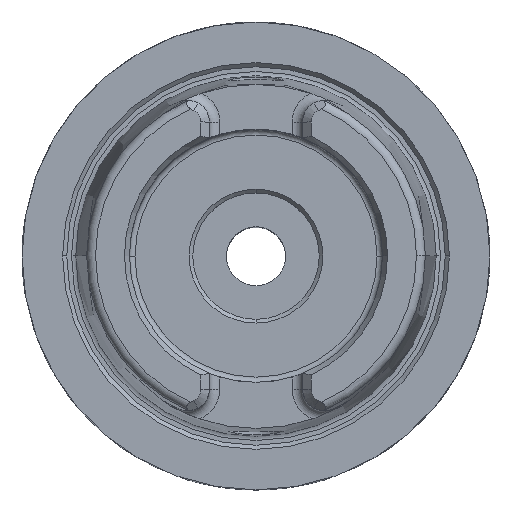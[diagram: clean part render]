
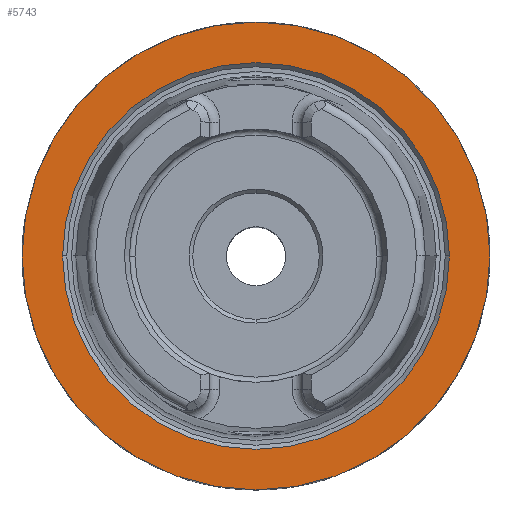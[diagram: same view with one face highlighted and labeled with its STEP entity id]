
A CAD part, top view. The second image highlights one B-rep face of the part: STEP entity #5743.
In plain terms, the highlighted planar face has unit normal (0, 0, 1).
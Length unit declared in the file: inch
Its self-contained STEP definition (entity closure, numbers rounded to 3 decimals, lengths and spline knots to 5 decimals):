
#243 = CARTESIAN_POINT ( 'NONE',  ( 1.23898, 0., 0. ) ) ;
#285 = DIRECTION ( 'NONE',  ( 0., 0., 1. ) ) ;
#496 = CARTESIAN_POINT ( 'NONE',  ( 1.02397, 0., 0. ) ) ;
#597 = DIRECTION ( 'NONE',  ( 0., 0., 1. ) ) ;
#965 = EDGE_LOOP ( 'NONE', ( #1584, #2792 ) ) ;
#1020 = CARTESIAN_POINT ( 'NONE',  ( 0., 0., 0. ) ) ;
#1065 = CARTESIAN_POINT ( 'NONE',  ( 0., 0., 0. ) ) ;
#1154 = CARTESIAN_POINT ( 'NONE',  ( 0., 0., 0. ) ) ;
#1334 = CIRCLE ( 'NONE', #1663, 1.23898 ) ;
#1584 = ORIENTED_EDGE ( 'NONE', *, *, #6105, .F. ) ;
#1663 = AXIS2_PLACEMENT_3D ( 'NONE', #1065, #4755, #3171 ) ;
#1724 = VERTEX_POINT ( 'NONE', #4850 ) ;
#1763 = FACE_OUTER_BOUND ( 'NONE', #1795, .T. ) ;
#1795 = EDGE_LOOP ( 'NONE', ( #4857, #2186 ) ) ;
#1877 = FACE_BOUND ( 'NONE', #965, .T. ) ;
#1966 = CIRCLE ( 'NONE', #3811, 1.23898 ) ;
#2179 = CIRCLE ( 'NONE', #6051, 1.02397 ) ;
#2186 = ORIENTED_EDGE ( 'NONE', *, *, #2377, .F. ) ;
#2377 = EDGE_CURVE ( 'NONE', #4357, #1724, #1334, .T. ) ;
#2713 = DIRECTION ( 'NONE',  ( 0., 0., 1. ) ) ;
#2749 = VERTEX_POINT ( 'NONE', #496 ) ;
#2792 = ORIENTED_EDGE ( 'NONE', *, *, #4848, .F. ) ;
#3171 = DIRECTION ( 'NONE',  ( -1., 0., 0. ) ) ;
#3664 = DIRECTION ( 'NONE',  ( 0., 0., -1. ) ) ;
#3681 = CARTESIAN_POINT ( 'NONE',  ( 0., 0., 0. ) ) ;
#3811 = AXIS2_PLACEMENT_3D ( 'NONE', #1020, #3664, #5788 ) ;
#3851 = CARTESIAN_POINT ( 'NONE',  ( 0., 0.9575, 0. ) ) ;
#4172 = DIRECTION ( 'NONE',  ( 1., 0., 0. ) ) ;
#4357 = VERTEX_POINT ( 'NONE', #243 ) ;
#4363 = AXIS2_PLACEMENT_3D ( 'NONE', #1154, #597, #4739 ) ;
#4602 = AXIS2_PLACEMENT_3D ( 'NONE', #3851, #285, #5574 ) ;
#4739 = DIRECTION ( 'NONE',  ( 1., 0., 0. ) ) ;
#4755 = DIRECTION ( 'NONE',  ( 0., 0., -1. ) ) ;
#4848 = EDGE_CURVE ( 'NONE', #5357, #2749, #6263, .T. ) ;
#4850 = CARTESIAN_POINT ( 'NONE',  ( -1.23898, 0., 0. ) ) ;
#4857 = ORIENTED_EDGE ( 'NONE', *, *, #5459, .F. ) ;
#5214 = CARTESIAN_POINT ( 'NONE',  ( -1.02397, 0., 0. ) ) ;
#5357 = VERTEX_POINT ( 'NONE', #5214 ) ;
#5459 = EDGE_CURVE ( 'NONE', #1724, #4357, #1966, .T. ) ;
#5574 = DIRECTION ( 'NONE',  ( 1., 0., 0. ) ) ;
#5743 = ADVANCED_FACE ( 'NONE', ( #1763, #1877 ), #6571, .T. ) ;
#5788 = DIRECTION ( 'NONE',  ( -1., 0., 0. ) ) ;
#6051 = AXIS2_PLACEMENT_3D ( 'NONE', #3681, #2713, #4172 ) ;
#6105 = EDGE_CURVE ( 'NONE', #2749, #5357, #2179, .T. ) ;
#6263 = CIRCLE ( 'NONE', #4363, 1.02397 ) ;
#6571 = PLANE ( 'NONE',  #4602 ) ;
